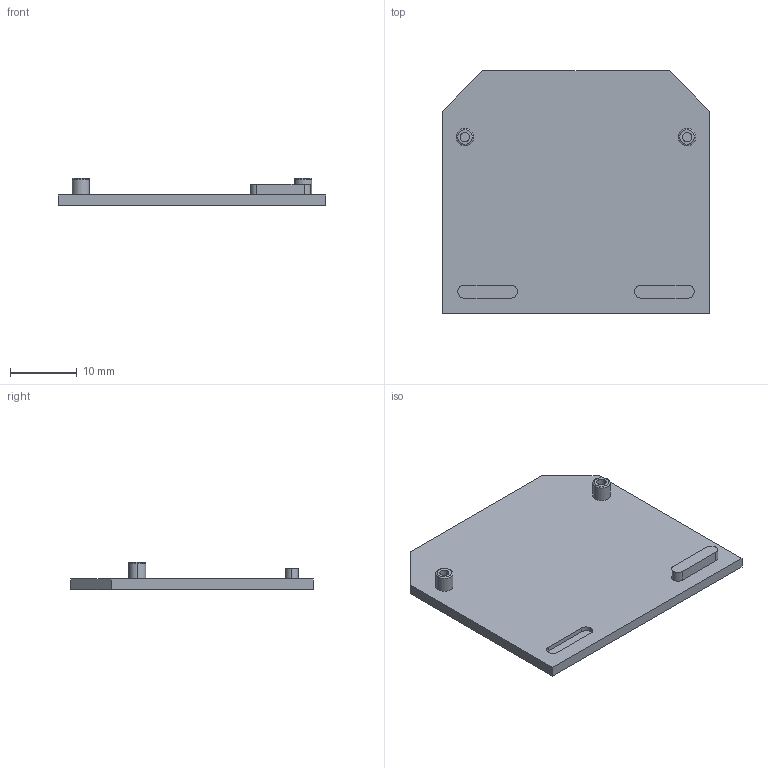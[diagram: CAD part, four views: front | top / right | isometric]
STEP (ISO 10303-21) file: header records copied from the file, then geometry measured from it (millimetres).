
FILE_DESCRIPTION (( 'STEP AP203' ), '1' );
FILE_NAME ('sak-4-35 Çàãëóøêà äëÿ JXB-4-35.STEP', '2017-05-02T16:55:41', ( 'kuryshev' ), ( '' ), 'SwSTEP 2.0', 'SolidWorks 2010', '' );
FILE_SCHEMA (( 'CONFIG_CONTROL_DESIGN' ));
Length unit declared in the file: millimetre
Products named in the file (1): sak-4-35 Çàãëóøêà äëÿ JXB-4-35
Bounding box: 40.2 x 36.5 x 4.1 mm (x, y, z)
Volume: 2321.6 mm3; surface area: 3202 mm2
Topology: 1 solids, 1 shells, 36 faces, 80 edges, 52 vertices
Faces by surface type: plane 18, cylinder 14, torus 4
Entity records: 1085 total; most frequent: DIRECTION 190, CARTESIAN_POINT 169, ORIENTED_EDGE 160, EDGE_CURVE 80, AXIS2_PLACEMENT_3D 73, VERTEX_POINT 52, LINE 44, VECTOR 44
